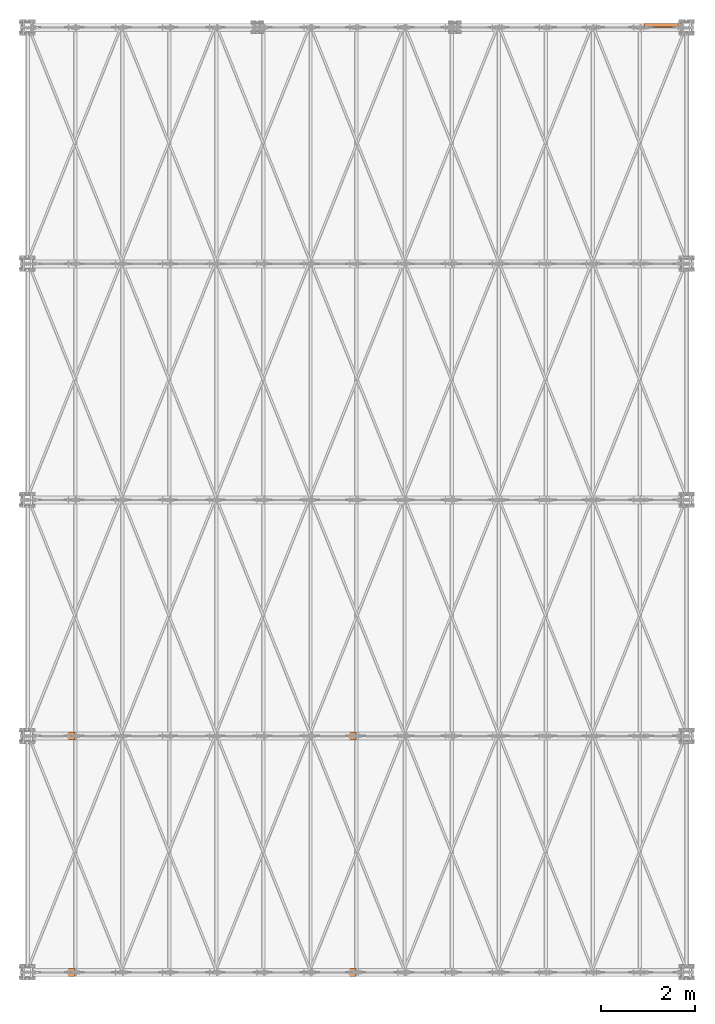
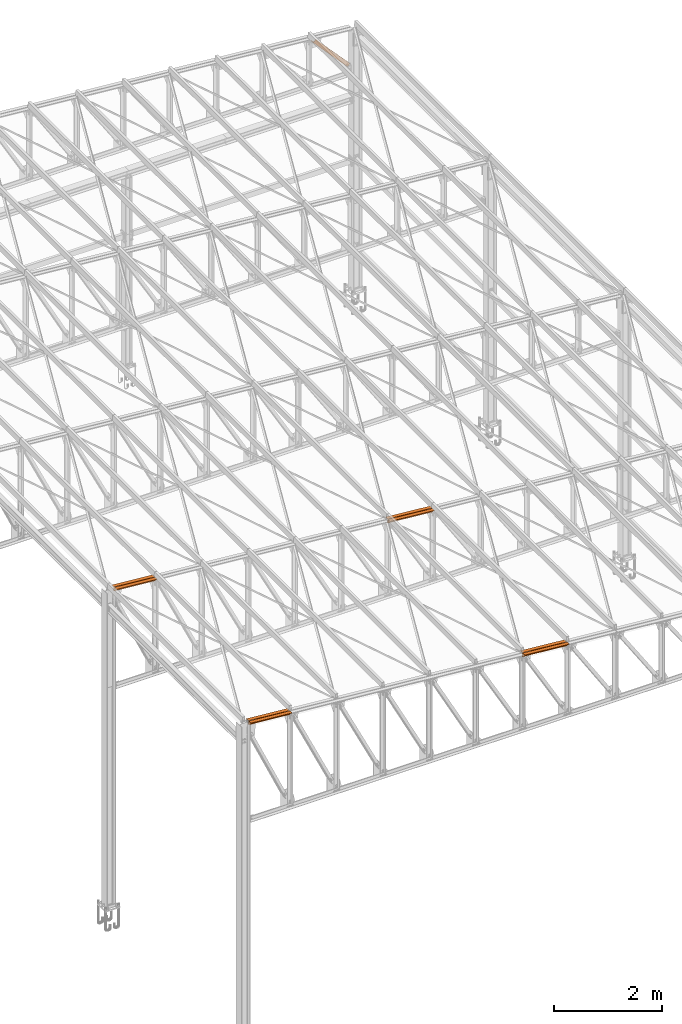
# One storey, part 246 of 251: 9 proxies.
"""IFC4 building model written with IfcOpenShell, lengths in metres."""

from ifc_helpers import new_model, si_unit, frame, origin_with_axes, origin_2d_with_axis, place, context, project, spatial, polyline, i_section, outline, extrude, material, material_profile, profile_set, profile_usage, type_object, element, save


model = new_model("IFC4")

# Units and contexts
model_context = context("Model", 3, precision=1e-05, world=origin_with_axes())
ifc_project = project(units=[si_unit("LENGTHUNIT", "METRE"), si_unit("AREAUNIT", "SQUARE_METRE"), si_unit("VOLUMEUNIT", "CUBIC_METRE"), si_unit("MASSUNIT", "GRAM", prefix="KILO"), si_unit("TIMEUNIT", "SECOND"), si_unit("PLANEANGLEUNIT", "RADIAN"), si_unit("SOLIDANGLEUNIT", "STERADIAN"), si_unit("THERMODYNAMICTEMPERATUREUNIT", "DEGREE_CELSIUS")], contexts=[model_context])

# Site, building, storey
placement_1 = place(None, origin_with_axes())
site = spatial("IfcSite", under=ifc_project, at=placement_1, Name="Italia", CompositionType="ELEMENT")
building = spatial("IfcBuilding", under=site, at=placement_1, Name="Deposito", CompositionType="ELEMENT")
storey = spatial("IfcBuildingStorey", under=building, at=placement_1, Name="Storey 0", CompositionType="ELEMENT", Elevation=0.0)

# Proxies
ifc_material = material(Name="Acciaio", Category="Acciaio")
ifc_material_profile = material_profile(ifc_material, i_section(OverallWidth=0.2, OverallDepth=0.19, WebThickness=0.006, FlangeThickness=0.01, FilletRadius=0.018, at=origin_2d_with_axis()), Name="7 PILASTRO HEA200")
ifc_profile_set = profile_set([ifc_material_profile])
ifc_profile_usage_1 = profile_usage(ifc_profile_set, cardinal=2)
member_type_1 = type_object("IfcMemberType", Name="5 2L80x8", PredefinedType="MEMBER", material=ifc_profile_usage_1)
placement_2 = place(placement_1, origin_with_axes())
proxy_1_placement = place(placement_2, origin_with_axes())
element("IfcBuildingElementProxy", 1, at=proxy_1_placement, inside=storey, type_object=member_type_1, Name="230071", context=model_context, shape_type="SweptSolid", body=[
    extrude(outline(polyline([(0.0, 0.0), (0.08, 0.0), (0.08, -0.0079999), (0.008, -0.0079999), (0.00800001, -0.0799999), (0.0, -0.0799999), (0.0, 0.0)])), frame((12.0375, 0.005, 6.71922), z_axis=(0.995984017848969, 0.0, -0.089531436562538), x_axis=(0.0, 1.0, 0.0)), (0.0, 0.0, 1.0), 0.963416),
])
ifc_profile_usage_2 = profile_usage(ifc_profile_set, cardinal=2)
member_type_2 = type_object("IfcMemberType", Name="5 2L80x8", PredefinedType="MEMBER", material=ifc_profile_usage_2)
proxy_2_placement = place(placement_2, origin_with_axes())
element("IfcBuildingElementProxy", 2, at=proxy_2_placement, inside=storey, type_object=member_type_2, Name="230071", context=model_context, shape_type="SweptSolid", body=[
    extrude(outline(polyline([(0.0, 0.0), (-0.008, 0.0), (-0.00800001, 0.072), (-0.08, 0.072), (-0.08, 0.0799999), (0.0, 0.0799999), (0.0, 0.0)])), frame((12.0303, -0.00499999, 6.63954), z_axis=(0.995984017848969, 0.0, -0.089531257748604), x_axis=(0.0, 1.0, 0.0)), (0.0, 0.0, 1.0), 0.963418),
])
ifc_profile_usage_3 = profile_usage(ifc_profile_set, cardinal=2)
member_type_3 = type_object("IfcMemberType", Name="5 2L80x8", PredefinedType="MEMBER", material=ifc_profile_usage_3)
proxy_3_placement = place(placement_2, origin_with_axes())
element("IfcBuildingElementProxy", 3, at=proxy_3_placement, inside=storey, type_object=member_type_3, Name="230071", context=model_context, shape_type="SweptSolid", body=[
    extrude(outline(polyline([(0.0, 0.0), (0.08, 0.0), (0.08, -0.0079999), (0.008, -0.0079999), (0.00800001, -0.0799999), (0.0, -0.0799999), (0.0, 0.0)])), frame((6.162, 0.005, 7.23302), z_axis=(0.996219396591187, 0.0, -0.086873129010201), x_axis=(0.0, 1.0, 0.0)), (0.0, 0.0, 1.0), 0.892801),
])
ifc_profile_usage_4 = profile_usage(ifc_profile_set, cardinal=2)
member_type_4 = type_object("IfcMemberType", Name="5 2L80x8", PredefinedType="MEMBER", material=ifc_profile_usage_4)
proxy_4_placement = place(placement_2, origin_with_axes())
element("IfcBuildingElementProxy", 4, at=proxy_4_placement, inside=storey, type_object=member_type_4, Name="230071", context=model_context, shape_type="SweptSolid", body=[
    extrude(outline(polyline([(0.0, 0.0), (-0.008, 0.0), (-0.00800001, 0.0719995), (-0.08, 0.0719995), (-0.08, 0.0799999), (0.0, 0.0799999), (0.0, 0.0)])), frame((6.15505, -0.00499999, 7.15332), z_axis=(0.996219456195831, 0.0, -0.086872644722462), x_axis=(0.0, 1.0, 0.0)), (0.0, 0.0, 1.0), 0.892801),
])
ifc_profile_usage_5 = profile_usage(ifc_profile_set, cardinal=2)
member_type_5 = type_object("IfcMemberType", Name="5 2L80x8", PredefinedType="MEMBER", material=ifc_profile_usage_5)
proxy_5_placement = place(placement_2, origin_with_axes())
element("IfcBuildingElementProxy", 5, at=proxy_5_placement, inside=storey, type_object=member_type_5, Name="230072", context=model_context, shape_type="SweptSolid", body=[
    extrude(outline(polyline([(0.0, 0.0), (0.0799999, 0.0), (0.0799999, -0.0079999), (0.0079999, -0.0079999), (0.0079999, -0.0799999), (0.0, -0.0799999), (0.0, 0.0)])), frame((12.0375, 5.005, 6.71922), z_axis=(0.995984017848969, 0.0, -0.089531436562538), x_axis=(0.0, 1.0, 0.0)), (0.0, 0.0, 1.0), 0.963416),
])
ifc_profile_usage_6 = profile_usage(ifc_profile_set, cardinal=2)
member_type_6 = type_object("IfcMemberType", Name="5 2L80x8", PredefinedType="MEMBER", material=ifc_profile_usage_6)
proxy_6_placement = place(placement_2, origin_with_axes())
element("IfcBuildingElementProxy", 6, at=proxy_6_placement, inside=storey, type_object=member_type_6, Name="230072", context=model_context, shape_type="SweptSolid", body=[
    extrude(outline(polyline([(0.0, 0.0), (-0.0079999, 0.0), (-0.0079999, 0.072), (-0.0799999, 0.072), (-0.0799999, 0.0799999), (0.0, 0.0799999), (0.0, 0.0)])), frame((12.0303, 4.995, 6.63954), z_axis=(0.995984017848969, 0.0, -0.089531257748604), x_axis=(0.0, 1.0, 0.0)), (0.0, 0.0, 1.0), 0.963418),
])
ifc_profile_usage_7 = profile_usage(ifc_profile_set, cardinal=2)
member_type_7 = type_object("IfcMemberType", Name="5 2L80x8", PredefinedType="MEMBER", material=ifc_profile_usage_7)
proxy_7_placement = place(placement_2, origin_with_axes())
element("IfcBuildingElementProxy", 7, at=proxy_7_placement, inside=storey, type_object=member_type_7, Name="230072", context=model_context, shape_type="SweptSolid", body=[
    extrude(outline(polyline([(0.0, 0.0), (0.0799999, 0.0), (0.0799999, -0.0079999), (0.0079999, -0.0079999), (0.0079999, -0.0799999), (0.0, -0.0799999), (0.0, 0.0)])), frame((6.162, 5.005, 7.23302), z_axis=(0.996219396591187, 0.0, -0.086873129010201), x_axis=(0.0, 1.0, 0.0)), (0.0, 0.0, 1.0), 0.892801),
])
ifc_profile_usage_8 = profile_usage(ifc_profile_set, cardinal=2)
member_type_8 = type_object("IfcMemberType", Name="5 2L80x8", PredefinedType="MEMBER", material=ifc_profile_usage_8)
proxy_8_placement = place(placement_2, origin_with_axes())
element("IfcBuildingElementProxy", 8, at=proxy_8_placement, inside=storey, type_object=member_type_8, Name="230072", context=model_context, shape_type="SweptSolid", body=[
    extrude(outline(polyline([(0.0, 0.0), (-0.0079999, 0.0), (-0.0079999, 0.0719995), (-0.0799999, 0.0719995), (-0.0799999, 0.0799999), (0.0, 0.0799999), (0.0, 0.0)])), frame((6.15505, 4.995, 7.15332), z_axis=(0.996219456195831, 0.0, -0.086872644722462), x_axis=(0.0, 1.0, 0.0)), (0.0, 0.0, 1.0), 0.892801),
])
ifc_profile_usage_9 = profile_usage(ifc_profile_set, cardinal=1)
member_type_9 = type_object("IfcMemberType", Name="5 2L80x8", PredefinedType="MEMBER", material=ifc_profile_usage_9)
proxy_9_placement = place(placement_2, origin_with_axes())
element("IfcBuildingElementProxy", 9, at=proxy_9_placement, inside=storey, type_object=member_type_9, Name="100005", context=model_context, shape_type="SweptSolid", body=[
    extrude(outline(polyline([(0.0, 0.0), (0.00800133, 0.0), (0.00800133, -0.0719986), (0.0799999, -0.0719986), (0.0799999, -0.0799999), (0.0, -0.0799999), (0.0, 0.0)])), frame((19.1561, 20.005, 6.00604), z_axis=(0.675590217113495, 0.0, -0.737277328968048), x_axis=(0.0, 1.0, 0.0)), (0.0, 0.0, 1.0), 1.09364),
])

save(model, "model.ifc")
